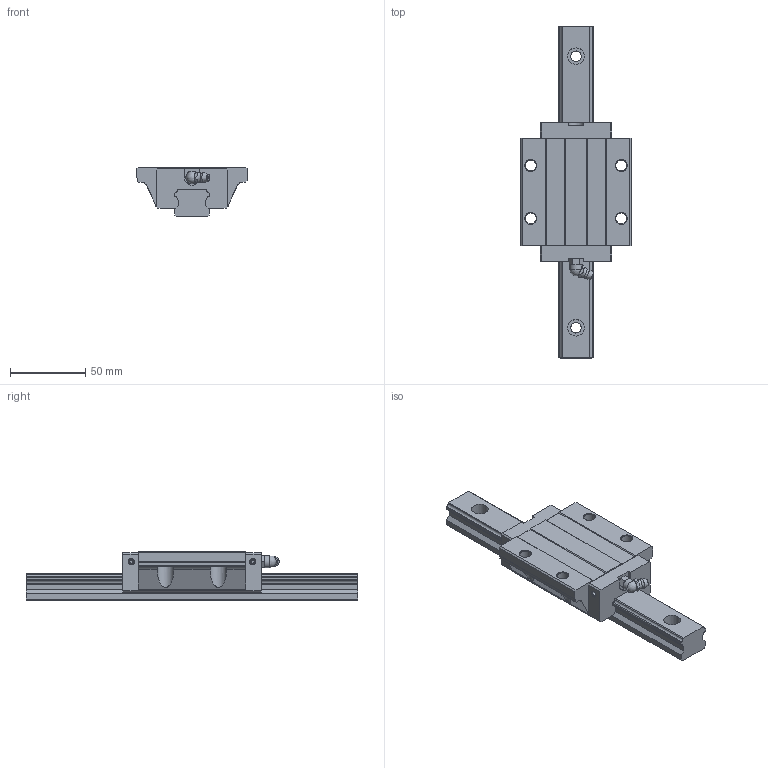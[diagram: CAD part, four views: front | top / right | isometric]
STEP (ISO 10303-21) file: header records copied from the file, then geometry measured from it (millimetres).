
FILE_DESCRIPTION(/* description */ (''),/* implementation_level */ '2;1');
FILE_NAME(/* name */ 'SME25-EB',/* time_stamp */ '2008-10-06T10:22:22+08:00',/* author */ (''),/* organization */ (''),/* preprocessor_version */ 'ST-DEVELOPER v11',/* originating_system */ 'UGS - NX 5.0',/* authorisation */ '');
FILE_SCHEMA (('AUTOMOTIVE_DESIGN { 1 0 10303 214 1 1 1 1 }'));
Length unit declared in the file: millimetre
Products named in the file (1): jillBD1Calk5
Bounding box: 73 x 220 x 33 mm (x, y, z)
Volume: 195137.2 mm3; surface area: 44085.9 mm2
Topology: 3 solids, 3 shells, 197 faces, 524 edges, 347 vertices
Faces by surface type: plane 119, cylinder 59, cone 9, torus 7, sphere 2, bspline 1
Full cylindrical faces by diameter (mm): 2 x4, 3.3 x4, 6.5 x2, 7 x4, 7.2 x4, 8 x1, 11 x4
Entity records: 6235 total; most frequent: CARTESIAN_POINT 1174, DIRECTION 990, ORIENTED_EDGE 946, EDGE_CURVE 473, AXIS2_PLACEMENT_3D 340, VERTEX_POINT 332, LINE 310, VECTOR 310
